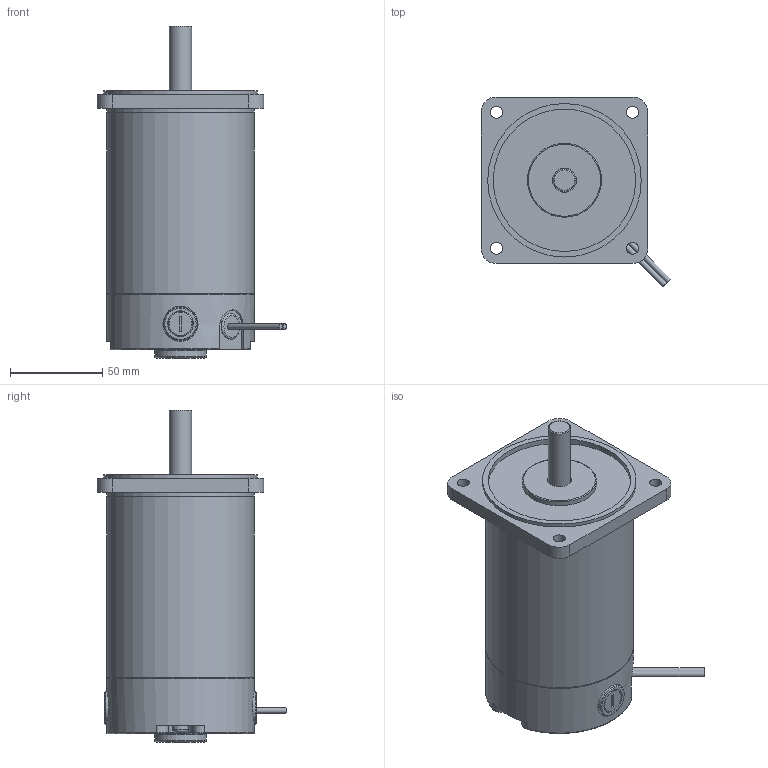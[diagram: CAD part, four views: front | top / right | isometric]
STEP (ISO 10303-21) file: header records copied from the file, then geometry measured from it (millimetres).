
FILE_DESCRIPTION((''),'2;1');
FILE_NAME('C:\Documents and Settings\ycw1227\바탕 화면\S9D60-ㅁS.iam.stp','2013-06-05T10:56:47',('ycw1227'),(''),'Autodesk Inventor 2011','Autodesk Inventor 2011','');
FILE_SCHEMA(('AUTOMOTIVE_DESIGN { 1 0 10303 214 1 1 1 1 }'));
Length unit declared in the file: millimetre
Products named in the file (1): 부품2
Bounding box: 102.45 x 102.45 x 179.5 mm (x, y, z)
Volume: 720120.8 mm3; surface area: 61885.9 mm2
Topology: 1 solids, 3 shells, 163 faces, 379 edges, 246 vertices
Faces by surface type: plane 87, cylinder 46, torus 16, cone 14
Full cylindrical faces by diameter (mm): 3 x2, 5 x2, 6.5 x4, 8.5 x2, 9 x1, 12 x1, 13 x1, 13.5 x2, 14 x3, 18 x2, 19 x2, 28 x1, 40 x1, 77 x1, 80 x3, 83 x1
Entity records: 4702 total; most frequent: CARTESIAN_POINT 942, DIRECTION 765, ORIENTED_EDGE 670, EDGE_CURVE 335, AXIS2_PLACEMENT_3D 305, VERTEX_POINT 242, EDGE_LOOP 236, FACE_OUTER_BOUND 163
